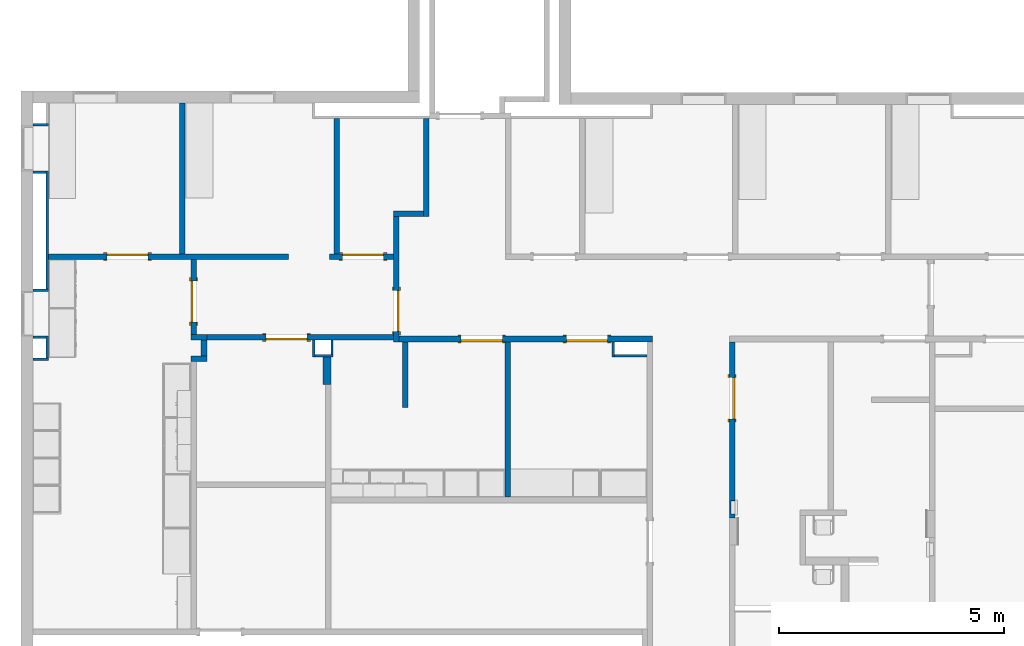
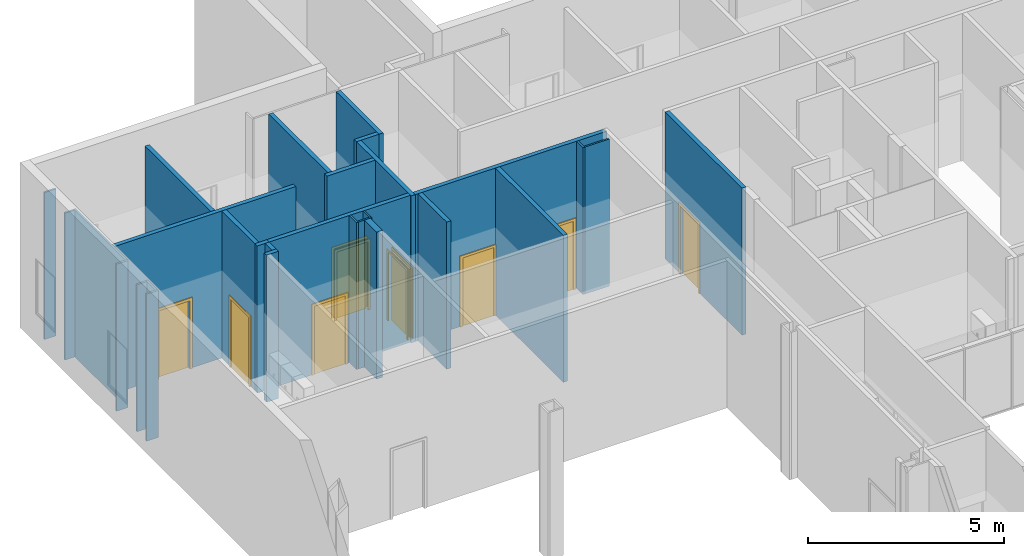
# One storey, part 20 of 47: 29 walls, 8 doors, 9 openings.
"""IFC2X3 building model written with IfcOpenShell, lengths in metres."""

import ifcopenshell
import ifcopenshell.guid

model = None  # the IFC model being written
_history = None  # IfcOwnerHistory: only IFC2X3 demands one
_inside = {}  # id of a spatial element -> (the spatial element, [elements in it])
_under = {}  # id of a project, library or spatial element -> (it, [spatial elements below it])
_declared = {}  # id of a project -> (the project, [libraries it declares])
_typed = {}  # id of a type object -> (the type object, [elements of that type])
_made_of = {}  # id of a material, layer set ... -> (it, [elements and type objects made of it])


def new_model(schema):
    """Start an empty IFC model of exactly this schema.

    Asked for "IFC4X3", IfcOpenShell would pick the latest addendum, in which some entities
    have other attributes; the version numbers below select the first issue.
    IFC2X3 requires an IfcOwnerHistory on every rooted entity: one is made here for all.
    """
    global model, _history
    if schema == "IFC4X3":
        model = ifcopenshell.file(schema_version=(4, 3, 0, 0))
    else:
        model = ifcopenshell.file(schema=schema)
    _inside.clear()
    _under.clear()
    _declared.clear()
    _typed.clear()
    _made_of.clear()
    _history = None
    if model.schema == "IFC2X3":
        org = make("IfcOrganization", Name="unknown")
        user = make(
            "IfcPersonAndOrganization",
            ThePerson=make("IfcPerson", FamilyName="unknown"),
            TheOrganization=org,
        )
        app = make(
            "IfcApplication",
            ApplicationDeveloper=org,
            Version="unknown",
            ApplicationFullName="unknown",
            ApplicationIdentifier="unknown",
        )
        _history = make(
            "IfcOwnerHistory",
            OwningUser=user,
            OwningApplication=app,
            ChangeAction="ADDED",
            CreationDate=0,
        )
    return model


def make(cls, **values):
    """One entity of the class cls with the attributes given. An attribute that is None is left unset."""
    return model.create_entity(
        cls, **{name: value for name, value in values.items() if value is not None}
    )


def entity(cls, *values):
    """Any entity or typed value of the class cls, its attributes in the order of the schema. None: left unset."""
    e = model.create_entity(cls)
    for i, value in enumerate(values):
        if value is not None:
            e[i] = value
    return e


def rooted(cls, **values):
    """An entity with a GlobalId (a new one), such as an element, a storey or a relation."""
    return make(cls, GlobalId=ifcopenshell.guid.new(), OwnerHistory=_history, **values)


def si_unit(unit_type, name, prefix=None):
    """IfcSIUnit, for example si_unit("LENGTHUNIT", "METRE", prefix="MILLI")."""
    return make("IfcSIUnit", UnitType=unit_type, Prefix=prefix, Name=name)


def converted_unit(unit_type, name, factor, base, dimensions=None, offset=None):
    """IfcConversionBasedUnit, such as the inch: factor (a typed value) times the base unit."""
    return make(
        "IfcConversionBasedUnit"
        if offset is None
        else "IfcConversionBasedUnitWithOffset",
        ConversionOffset=offset,
        Dimensions=None
        if dimensions is None
        else entity("IfcDimensionalExponents", *dimensions),
        UnitType=unit_type,
        Name=name,
        ConversionFactor=make(
            "IfcMeasureWithUnit", ValueComponent=factor, UnitComponent=base
        ),
    )


def assignment(units):
    """IfcUnitAssignment: the units of a project."""
    return None if units is None else make("IfcUnitAssignment", Units=units)


def point(xyz):
    """IfcCartesianPoint."""
    return None if xyz is None else make("IfcCartesianPoint", Coordinates=xyz)


def direction(xyz):
    """IfcDirection."""
    return None if xyz is None else make("IfcDirection", DirectionRatios=xyz)


def frame(location, z_axis=None, x_axis=None):
    """IfcAxis2Placement3D, a coordinate frame: its origin and axes. An axis left out is left unset."""
    return make(
        "IfcAxis2Placement3D",
        Location=point(location),
        Axis=direction(z_axis),
        RefDirection=direction(x_axis),
    )


def frame_2d(location, x_axis=None):
    """IfcAxis2Placement2D, a coordinate frame in the plane: its origin and x axis."""
    return make(
        "IfcAxis2Placement2D", Location=point(location), RefDirection=direction(x_axis)
    )


def origin():
    """The frame at (0, 0, 0) with its axes left unset."""
    return frame((0.0, 0.0, 0.0))


def origin_2d_with_axis():
    """The frame at (0, 0) in the plane with the x axis (1, 0) written out."""
    return frame_2d((0.0, 0.0), x_axis=(1.0, 0.0))


def place(relative_to, where):
    """IfcLocalPlacement: puts the frame where relative to a parent placement (None: the world)."""
    return make(
        "IfcLocalPlacement", PlacementRelTo=relative_to, RelativePlacement=where
    )


def context(
    kind, dimensions, precision=None, world=None, true_north=None, identifier=None
):
    """IfcGeometricRepresentationContext, for example the 3D "Model" context."""
    return make(
        "IfcGeometricRepresentationContext",
        ContextIdentifier=identifier,
        ContextType=kind,
        CoordinateSpaceDimension=dimensions,
        Precision=precision,
        WorldCoordinateSystem=world,
        TrueNorth=true_north,
    )


def project(units=None, contexts=None):
    """IfcProject with its units and contexts."""
    return rooted(
        "IfcProject",
        Name="project",
        RepresentationContexts=contexts,
        UnitsInContext=assignment(units),
    )


def spatial(cls, under=None, at=None, **own):
    """A site, building, storey or space (cls), placed at a placement, below another one or the project."""
    s = rooted(cls, ObjectPlacement=at, **own)
    if under is not None:
        _under.setdefault(under.id(), (under, []))[1].append(s)
    return s


def polyline(points):
    """IfcPolyline through the points."""
    return make("IfcPolyline", Points=[point(p) for p in points])


def profile(cls, at=None, kind="AREA", **sizes):
    """A parametric profile (cls). Its sizes go by their IFC names, for example OverallWidth=200.0."""
    return make(cls, ProfileType=kind, Position=at, **sizes)


def rectangle(**sizes):
    """IfcRectangleProfileDef."""
    return profile("IfcRectangleProfileDef", **sizes)


def outline(outer, holes=None, kind="AREA"):
    """IfcArbitraryClosedProfileDef: a profile drawn as a closed curve; with holes, ...WithVoids."""
    if holes is None:
        return make("IfcArbitraryClosedProfileDef", ProfileType=kind, OuterCurve=outer)
    return make(
        "IfcArbitraryProfileDefWithVoids",
        ProfileType=kind,
        OuterCurve=outer,
        InnerCurves=holes,
    )


def extrude(swept, where, along, depth):
    """IfcExtrudedAreaSolid: the profile swept, set in the frame where, extruded along a direction by depth."""
    return make(
        "IfcExtrudedAreaSolid",
        SweptArea=swept,
        Position=where,
        ExtrudedDirection=direction(along),
        Depth=depth,
    )


def shape(context_of_items, identifier, shape_type, items):
    """IfcShapeRepresentation: the items that make up one representation, for example the "Body"."""
    return make(
        "IfcShapeRepresentation",
        ContextOfItems=context_of_items,
        RepresentationIdentifier=identifier,
        RepresentationType=shape_type,
        Items=items,
    )


def source(mapping_origin, context_of_items, identifier, shape_type, items):
    """IfcRepresentationMap: a shape defined once, which mapped items show again and again."""
    return make(
        "IfcRepresentationMap",
        MappingOrigin=mapping_origin,
        MappedRepresentation=shape(context_of_items, identifier, shape_type, items),
    )


def transform(
    local_origin,
    x_axis=None,
    y_axis=None,
    z_axis=None,
    scale=None,
    scale2=None,
    scale3=None,
    uniform=True,
):
    """IfcCartesianTransformationOperator3D, or its non-uniform kind. x_axis, y_axis, z_axis: its Axis1, 2, 3."""
    if uniform:
        return make(
            "IfcCartesianTransformationOperator3D",
            Axis1=direction(x_axis),
            Axis2=direction(y_axis),
            LocalOrigin=point(local_origin),
            Scale=scale,
            Axis3=direction(z_axis),
        )
    return make(
        "IfcCartesianTransformationOperator3DnonUniform",
        Axis1=direction(x_axis),
        Axis2=direction(y_axis),
        LocalOrigin=point(local_origin),
        Scale=scale,
        Axis3=direction(z_axis),
        Scale2=scale2,
        Scale3=scale3,
    )


def mapped(mapping_source, mapping_target):
    """IfcMappedItem: shows the shape of a source again, moved by a transform."""
    return make(
        "IfcMappedItem", MappingSource=mapping_source, MappingTarget=mapping_target
    )


def material(Name=None, Category=None):
    """IfcMaterial."""
    return make("IfcMaterial", Name=Name, Category=Category)


def layer(
    of_material, thickness, ventilated=None, Name=None, Category=None, Priority=None
):
    """IfcMaterialLayer: one layer of a wall or slab, of a material (None: an air gap)."""
    return make(
        "IfcMaterialLayer",
        Material=of_material,
        LayerThickness=thickness,
        IsVentilated=ventilated,
        Name=Name,
        Category=Category,
        Priority=Priority,
    )


def layer_set(layers, Name=None):
    """IfcMaterialLayerSet."""
    return make("IfcMaterialLayerSet", MaterialLayers=layers, LayerSetName=Name)


def layer_usage(for_layer_set, set_direction, sense, offset, extent=None):
    """IfcMaterialLayerSetUsage: how a layer set lies in its element."""
    return make(
        "IfcMaterialLayerSetUsage",
        ForLayerSet=for_layer_set,
        LayerSetDirection=set_direction,
        DirectionSense=sense,
        OffsetFromReferenceLine=offset,
        ReferenceExtent=extent,
    )


def made_of(thing, what):
    """Note that an element or type object is made of a material, layer set ...; save() writes the relation."""
    if what is not None:
        _made_of.setdefault(what.id(), (what, []))[1].append(thing)
    return thing


def type_object(cls, material=None, **own):
    """A type object (cls), such as IfcWallType, which elements share."""
    return made_of(rooted(cls, **own), material)


def type_shapes(of_type, sources):
    """Give a type object the sources (RepresentationMaps) that its elements show as mapped items."""
    of_type.RepresentationMaps = sources


def element(
    cls,
    number,
    at=None,
    inside=None,
    cuts=None,
    type_object=None,
    material=None,
    context=None,
    identifier="Body",
    shape_type=None,
    held_by="IfcProductDefinitionShape",
    body=None,
    shapes=None,
    **own,
):
    """One element of the class cls, such as IfcWall. Its Tag is "e" and its number.

    at: its placement. inside: the storey or other place that contains it. cuts: it is an
    opening in that element (IfcRelVoidsElement). A single representation is given by context,
    identifier, shape_type and body (its items); several are given by shapes. held_by: the class
    of the entity that holds the representations. save() writes the other relations.
    """
    e = rooted(cls, Tag="e%d" % number, ObjectPlacement=at, **own)
    if body is not None:
        shapes = [shape(context, identifier, shape_type, body)]
    if shapes is not None:
        e.Representation = make(held_by, Representations=shapes)
    if inside is not None:
        _inside.setdefault(inside.id(), (inside, []))[1].append(e)
    if cuts is not None:
        rooted(
            "IfcRelVoidsElement", RelatingBuildingElement=cuts, RelatedOpeningElement=e
        )
    if type_object is not None:
        _typed.setdefault(type_object.id(), (type_object, []))[1].append(e)
    return made_of(e, material)


def fill(opening, filler):
    """IfcRelFillsElement: the door or window that sits in an opening."""
    return rooted(
        "IfcRelFillsElement",
        RelatingOpeningElement=opening,
        RelatedBuildingElement=filler,
    )


def aggregate(whole, parts):
    """IfcRelAggregates: a whole, such as a stair, and the parts it consists of."""
    return rooted("IfcRelAggregates", RelatingObject=whole, RelatedObjects=parts)


def save(model, path):
    """Write the relations noted so far, then the file.

    IfcRelAggregates (storeys below a building ...), IfcRelContainedInSpatialStructure (elements
    in a storey), IfcRelDefinesByType, IfcRelAssociatesMaterial and IfcRelDeclares: one each for
    every whole, place, type object, material and project.
    """
    for whole, parts in _under.values():
        aggregate(whole, parts)
    for where, things in _inside.values():
        rooted(
            "IfcRelContainedInSpatialStructure",
            RelatedElements=things,
            RelatingStructure=where,
        )
    for kind, things in _typed.values():
        rooted("IfcRelDefinesByType", RelatedObjects=things, RelatingType=kind)
    for what, things in _made_of.values():
        rooted("IfcRelAssociatesMaterial", RelatedObjects=things, RelatingMaterial=what)
    for by, libraries in _declared.values():
        rooted("IfcRelDeclares", RelatingContext=by, RelatedDefinitions=libraries)
    model.write(path)


model = new_model("IFC2X3")

# Units and contexts
model_context = context("Model", 3, precision=1e-09, world=origin())
plan_context = context("Plan", 3, precision=1e-09, world=origin())
ifc_project = project(units=[si_unit("LENGTHUNIT", "METRE"), si_unit("AREAUNIT", "SQUARE_METRE"), si_unit("VOLUMEUNIT", "CUBIC_METRE"), converted_unit("PLANEANGLEUNIT", "DEGREE", entity("IfcRatioMeasure", 0.01745329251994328), si_unit("PLANEANGLEUNIT", "RADIAN"), dimensions=[0, 0, 0, 0, 0, 0, 0]), si_unit("TIMEUNIT", "SECOND")], contexts=[model_context, plan_context])

# Site, building, storey
site_placement = place(None, origin())
site = spatial("IfcSite", under=ifc_project, at=site_placement, Name="Default", CompositionType="ELEMENT")
building_placement = place(site_placement, origin())
building = spatial("IfcBuilding", under=site, at=building_placement, CompositionType="ELEMENT")
storey_placement = place(building_placement, frame((0.0, 0.0, 4.570000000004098)))
storey = spatial("IfcBuildingStorey", under=building, at=storey_placement, Name="Second Floor", CompositionType="ELEMENT", Elevation=4.570000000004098)

# Wall, opening, door
ifc_material_1 = material(Name="Plasterboard")
ifc_layer_1 = layer(ifc_material_1, 0.016)
ifc_material_2 = material(Name="Metal - Stud Layer")
ifc_layer_2 = layer(ifc_material_2, 0.092)
ifc_layer_3 = layer(ifc_material_1, 0.016)
ifc_layer_set_1 = layer_set([ifc_layer_1, ifc_layer_2, ifc_layer_3], Name="Basic Wall:Interior - Partition (92mm Stud)")
ifc_layer_usage_1 = layer_usage(ifc_layer_set_1, "AXIS2", "NEGATIVE", 0.062)
wall_1_placement = place(storey_placement, frame((-39.08400000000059, 46.81643871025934, 0.0), z_axis=(0.0, 0.0, 1.0), x_axis=(-1.0, 0.0, 0.0)))
wall_1 = element("IfcWallStandardCase", 1, at=wall_1_placement, inside=storey, material=ifc_layer_usage_1, Name="Basic Wall:Interior - Partition (92mm Stud)", ObjectType="Basic Wall:Interior - Partition (92mm Stud)", context=model_context, shape_type="SweptSolid", body=[
    extrude(rectangle(XDim=1.425999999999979, YDim=0.1240000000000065, at=frame_2d((0.7129999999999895, 0.0), x_axis=(-1.0, 0.0))), origin(), (0.0, 0.0, 1.0), 4.577999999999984),
])
opening_1_placement = place(wall_1_placement, frame((1.141999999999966, 0.06200000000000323, 0.0)))
opening_1 = element("IfcOpeningElement", 2, at=opening_1_placement, cuts=wall_1, Name="M_Single-Flush:0915 x 2134mm:0915 x 2134mm:1", ObjectType="Opening", context=model_context, shape_type="SweptSolid", body=[
    extrude(rectangle(XDim=0.9149999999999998, YDim=2.134, at=frame_2d((1.067, 0.4575000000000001), x_axis=(0.0, -1.0))), frame((0.0, 0.0, 0.0), z_axis=(0.0, -1.0, 0.0), x_axis=(0.0, 0.0, 1.0)), (0.0, 0.0, 1.0), 0.124),
])
door_style_1 = type_object("IfcDoorStyle", Name="0915 x 2134mm", ConstructionType="NOTDEFINED", OperationType="SINGLE_SWING_LEFT", ParameterTakesPrecedence=False, Sizeable=False)
shared_shape_1 = source(origin(), model_context, "Body", "SweptSolid", [
    extrude(outline(polyline([(-0.5335, -1.123999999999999), (0.5334999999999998, -1.123999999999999), (0.5334999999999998, 1.086), (0.4574999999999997, 1.086), (0.4574999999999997, -1.048000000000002), (-0.4574999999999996, -1.048000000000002), (-0.4574999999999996, 1.086), (-0.5335, 1.086), (-0.5335, -1.123999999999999)])), frame((0.4575000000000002, 0.1489999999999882, 1.086), z_axis=(0.0, -1.0, 0.0), x_axis=(-1.0, 0.0, 0.0)), (0.0, 0.0, 1.0), 0.02499999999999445),
    extrude(outline(polyline([(-1.123999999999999, -0.5334999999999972), (1.085999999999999, -0.5334999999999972), (1.085999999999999, -0.4575000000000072), (-1.048, -0.4575000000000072), (-1.048, 0.4575000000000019), (1.085999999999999, 0.4575000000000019), (1.085999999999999, 0.5335000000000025), (-1.123999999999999, 0.5335000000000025), (-1.123999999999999, -0.5334999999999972)])), frame((0.4574999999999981, 0.0, 1.085999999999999), z_axis=(0.0, -1.0, 0.0), x_axis=(0.0, 0.0, -1.0)), (0.0, 0.0, 1.0), 0.02500000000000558),
    extrude(rectangle(XDim=0.9149999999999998, YDim=0.051, at=origin_2d_with_axis()), frame((0.4575000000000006, 0.09849999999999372, 0.0)), (0.0, 0.0, 1.0), 2.133999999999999),
])
type_shapes(door_style_1, [shared_shape_1])
door_1_placement = place(opening_1_placement, frame((0.0, 0.0, 0.0), z_axis=(0.0, 0.0, 1.0), x_axis=(-1.0, 0.0, 0.0)))
door_1 = element("IfcDoor", 3, at=door_1_placement, inside=storey, type_object=door_style_1, Name="M_Single-Flush:0915 x 2134mm:0915 x 2134mm", ObjectType="0915 x 2134mm", OverallHeight=2.134, OverallWidth=0.9149999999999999, context=model_context, shape_type="MappedRepresentation", body=[
    mapped(shared_shape_1, transform((0.0, 0.0, 0.0), scale=1.0)),
])
fill(opening_1, door_1)

# Walls
ifc_layer_usage_2 = layer_usage(ifc_layer_set_1, "AXIS2", "NEGATIVE", 0.062)
wall_2_placement = place(storey_placement, frame((-43.79200000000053, 50.23743871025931, 0.0), z_axis=(0.0, 0.0, 1.0), x_axis=(0.0, -1.0, 0.0)))
element("IfcWallStandardCase", 4, at=wall_2_placement, inside=storey, material=ifc_layer_usage_2, Name="Basic Wall:Interior - Partition (92mm Stud)", ObjectType="Basic Wall:Interior - Partition (92mm Stud)", context=model_context, shape_type="SweptSolid", body=[
    extrude(rectangle(XDim=3.358999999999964, YDim=0.1240000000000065, at=frame_2d((1.679499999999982, 0.0), x_axis=(-1.0, 0.0))), origin(), (0.0, 0.0, 1.0), 4.577999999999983),
])
ifc_layer_usage_3 = layer_usage(ifc_layer_set_1, "AXIS2", "NEGATIVE", 0.062)
wall_3_placement = place(storey_placement, frame((-40.34800000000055, 46.87843871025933, 0.0), z_axis=(0.0, 0.0, 1.0), x_axis=(0.0, 1.0, 0.0)))
element("IfcWallStandardCase", 5, at=wall_3_placement, inside=storey, material=ifc_layer_usage_3, Name="Basic Wall:Interior - Partition (92mm Stud)", ObjectType="Basic Wall:Interior - Partition (92mm Stud)", context=model_context, shape_type="SweptSolid", body=[
    extrude(rectangle(XDim=3.015999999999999, YDim=0.1240000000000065, at=frame_2d((1.507999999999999, 0.0), x_axis=(-1.0, 0.0))), origin(), (0.0, 0.0, 1.0), 4.577999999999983),
])
ifc_layer_usage_4 = layer_usage(ifc_layer_set_1, "AXIS2", "NEGATIVE", 0.062)
wall_4_placement = place(storey_placement, frame((-38.36200000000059, 49.89443871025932, 0.0), z_axis=(0.0, 0.0, 1.0), x_axis=(0.0, -1.0, 0.0)))
element("IfcWallStandardCase", 6, at=wall_4_placement, inside=storey, material=ifc_layer_usage_4, Name="Basic Wall:Interior - Partition (92mm Stud)", ObjectType="Basic Wall:Interior - Partition (92mm Stud)", context=model_context, shape_type="SweptSolid", body=[
    extrude(rectangle(XDim=2.190000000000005, YDim=0.1239999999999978, at=frame_2d((1.095000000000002, 0.0), x_axis=(-1.0, 0.0))), origin(), (0.0, 0.0, 1.0), 4.577999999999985),
])
ifc_layer_usage_5 = layer_usage(ifc_layer_set_1, "AXIS2", "NEGATIVE", 0.062)
wall_5_placement = place(storey_placement, frame((-38.4240000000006, 47.76643871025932, 0.0), z_axis=(0.0, 0.0, 1.0), x_axis=(-1.0, 0.0, 0.0)))
element("IfcWallStandardCase", 7, at=wall_5_placement, inside=storey, material=ifc_layer_usage_5, Name="Basic Wall:Interior - Partition (92mm Stud)", ObjectType="Basic Wall:Interior - Partition (92mm Stud)", context=model_context, shape_type="SweptSolid", body=[
    extrude(rectangle(XDim=0.6599999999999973, YDim=0.1240000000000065, at=frame_2d((0.3299999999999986, 0.0), x_axis=(-1.0, 0.0))), origin(), (0.0, 0.0, 1.0), 4.577999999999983),
])

# Wall, opening, door
ifc_layer_usage_6 = layer_usage(ifc_layer_set_1, "AXIS2", "NEGATIVE", 0.062)
wall_6_placement = place(storey_placement, frame((-39.02200000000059, 47.70443871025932, 0.0), z_axis=(0.0, 0.0, 1.0), x_axis=(0.0, -1.0, 0.0)))
wall_6 = element("IfcWallStandardCase", 8, at=wall_6_placement, inside=storey, material=ifc_layer_usage_6, Name="Basic Wall:Interior - Partition (92mm Stud)", ObjectType="Basic Wall:Interior - Partition (92mm Stud)", context=model_context, shape_type="SweptSolid", body=[
    extrude(rectangle(XDim=2.784000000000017, YDim=0.1240000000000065, at=frame_2d((1.392000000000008, 0.0), x_axis=(-1.0, 0.0))), origin(), (0.0, 0.0, 1.0), 4.577999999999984),
])
opening_2_placement = place(wall_6_placement, frame((1.645000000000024, -0.06200000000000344, 0.0)))
opening_2 = element("IfcOpeningElement", 9, at=opening_2_placement, cuts=wall_6, Name="M_Single-Flush:0915 x 2134mm:0915 x 2134mm:1", ObjectType="Opening", context=model_context, shape_type="SweptSolid", body=[
    extrude(rectangle(XDim=0.9149999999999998, YDim=2.134, at=frame_2d((1.067, 0.4575), x_axis=(0.0, 1.0))), frame((0.0, 0.0, 0.0), z_axis=(0.0, 1.0, 0.0), x_axis=(0.0, 0.0, 1.0)), (0.0, 0.0, 1.0), 0.124),
])
door_style_2 = type_object("IfcDoorStyle", Name="0915 x 2134mm", ConstructionType="NOTDEFINED", OperationType="SINGLE_SWING_RIGHT", ParameterTakesPrecedence=False, Sizeable=False)
shared_shape_2 = source(origin(), model_context, "Body", "SweptSolid", [
    extrude(outline(polyline([(-0.5335, -1.123999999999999), (0.5334999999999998, -1.123999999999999), (0.5334999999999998, 1.086), (0.4574999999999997, 1.086), (0.4574999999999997, -1.048000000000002), (-0.4574999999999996, -1.048000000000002), (-0.4574999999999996, 1.086), (-0.5335, 1.086), (-0.5335, -1.123999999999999)])), frame((0.4575000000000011, 0.1239999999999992, 1.086), z_axis=(0.0, 1.0, 0.0), x_axis=(1.0, 0.0, 0.0)), (0.0, 0.0, 1.0), 0.02499999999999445),
    extrude(outline(polyline([(-1.123999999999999, -0.5334999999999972), (1.085999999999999, -0.5334999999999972), (1.085999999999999, -0.4575000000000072), (-1.048, -0.4575000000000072), (-1.048, 0.4575000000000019), (1.085999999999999, 0.4575000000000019), (1.085999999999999, 0.5335000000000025), (-1.123999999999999, 0.5335000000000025), (-1.123999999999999, -0.5334999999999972)])), frame((0.4575000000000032, -0.02500000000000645, 1.085999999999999), z_axis=(0.0, 1.0, 0.0), x_axis=(0.0, 0.0, -1.0)), (0.0, 0.0, 1.0), 0.02500000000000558),
    extrude(rectangle(XDim=0.051, YDim=0.9149999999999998, at=origin_2d_with_axis()), frame((0.4575000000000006, 0.09849999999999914, 0.0), z_axis=(0.0, 0.0, 1.0), x_axis=(0.0, 1.0, 0.0)), (0.0, 0.0, 1.0), 2.133999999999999),
])
type_shapes(door_style_2, [shared_shape_2])
door_2_placement = place(opening_2_placement, origin())
door_2 = element("IfcDoor", 10, at=door_2_placement, inside=storey, type_object=door_style_2, Name="M_Single-Flush:0915 x 2134mm:0915 x 2134mm", ObjectType="0915 x 2134mm", OverallHeight=2.134, OverallWidth=0.9149999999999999, context=model_context, shape_type="MappedRepresentation", body=[
    mapped(shared_shape_2, transform((0.0, 0.0, 0.0), scale=1.0)),
])
fill(opening_2, door_2)

# Wall, openings, doors
ifc_layer_usage_7 = layer_usage(ifc_layer_set_1, "AXIS2", "NEGATIVE", 0.062)
wall_7_placement = place(storey_placement, frame((-38.9600000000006, 44.9824387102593, 0.0)))
wall_7 = element("IfcWallStandardCase", 11, at=wall_7_placement, inside=storey, material=ifc_layer_usage_7, Name="Basic Wall:Interior - Partition (92mm Stud)", ObjectType="Basic Wall:Interior - Partition (92mm Stud)", context=model_context, shape_type="SweptSolid", body=[
    extrude(rectangle(XDim=5.639999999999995, YDim=0.1240000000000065, at=frame_2d((2.819999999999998, 0.0), x_axis=(-1.0, 0.0))), origin(), (0.0, 0.0, 1.0), 4.577999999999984),
])
opening_3_placement = place(wall_7_placement, frame((4.639999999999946, 0.06199999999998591, 0.0)))
opening_3 = element("IfcOpeningElement", 12, at=opening_3_placement, cuts=wall_7, Name="M_Single-Flush:0915 x 2134mm:0915 x 2134mm:1", ObjectType="Opening", context=model_context, shape_type="SweptSolid", body=[
    extrude(rectangle(XDim=0.9149999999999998, YDim=2.134, at=frame_2d((1.067, 0.4574999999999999), x_axis=(0.0, -1.0))), frame((0.0, 0.0, 0.0), z_axis=(0.0, -1.0, 0.0), x_axis=(0.0, 0.0, 1.0)), (0.0, 0.0, 1.0), 0.124),
])
opening_4_placement = place(wall_7_placement, frame((2.295999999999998, 0.06199999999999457, 0.0)))
opening_4 = element("IfcOpeningElement", 13, at=opening_4_placement, cuts=wall_7, Name="M_Single-Flush:0915 x 2134mm:0915 x 2134mm:1", ObjectType="Opening", context=model_context, shape_type="SweptSolid", body=[
    extrude(rectangle(XDim=0.9149999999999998, YDim=2.134, at=frame_2d((1.067, 0.4575000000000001), x_axis=(0.0, -1.0))), frame((0.0, 0.0, 0.0), z_axis=(0.0, -1.0, 0.0), x_axis=(0.0, 0.0, 1.0)), (0.0, 0.0, 1.0), 0.124),
])
door_3_placement = place(opening_3_placement, frame((0.0, 0.0, 0.0), z_axis=(0.0, 0.0, 1.0), x_axis=(-1.0, 0.0, 0.0)))
door_3 = element("IfcDoor", 14, at=door_3_placement, inside=storey, type_object=door_style_1, Name="M_Single-Flush:0915 x 2134mm:0915 x 2134mm", ObjectType="0915 x 2134mm", OverallHeight=2.134, OverallWidth=0.9149999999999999, context=model_context, shape_type="MappedRepresentation", body=[
    mapped(shared_shape_1, transform((0.0, 0.0, 0.0), scale=1.0)),
])
fill(opening_3, door_3)
door_4_placement = place(opening_4_placement, frame((0.0, 0.0, 0.0), z_axis=(0.0, 0.0, 1.0), x_axis=(-1.0, 0.0, 0.0)))
door_4 = element("IfcDoor", 15, at=door_4_placement, inside=storey, type_object=door_style_1, Name="M_Single-Flush:0915 x 2134mm:0915 x 2134mm", ObjectType="0915 x 2134mm", OverallHeight=2.134, OverallWidth=0.9149999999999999, context=model_context, shape_type="MappedRepresentation", body=[
    mapped(shared_shape_1, transform((0.0, 0.0, 0.0), scale=1.0)),
])
fill(opening_4, door_4)

# Walls
ifc_layer_usage_8 = layer_usage(ifc_layer_set_1, "AXIS2", "NEGATIVE", 0.062)
wall_8_placement = place(storey_placement, frame((-43.60000000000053, 44.54243871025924, 0.0)))
element("IfcWallStandardCase", 16, at=wall_8_placement, inside=storey, material=ifc_layer_usage_8, Name="Basic Wall:Interior - Partition (92mm Stud)", ObjectType="Basic Wall:Interior - Partition (92mm Stud)", context=model_context, shape_type="SweptSolid", body=[
    extrude(rectangle(XDim=0.3540000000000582, YDim=0.1240000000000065, at=frame_2d((0.1770000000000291, 0.0), x_axis=(-1.0, 0.0))), origin(), (0.0, 0.0, 1.0), 4.577999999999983),
])
ifc_layer_usage_9 = layer_usage(ifc_layer_set_1, "AXIS2", "NEGATIVE", 0.062)
wall_9_placement = place(storey_placement, frame((-43.30800000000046, 44.60443871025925, 0.0), z_axis=(0.0, 0.0, 1.0), x_axis=(0.0, 1.0, 0.0)))
element("IfcWallStandardCase", 17, at=wall_9_placement, inside=storey, material=ifc_layer_usage_9, Name="Basic Wall:Interior - Partition (92mm Stud)", ObjectType="Basic Wall:Interior - Partition (92mm Stud)", context=model_context, shape_type="SweptSolid", body=[
    extrude(rectangle(XDim=0.350000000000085, YDim=0.1240000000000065, at=frame_2d((0.1750000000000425, 0.0), x_axis=(-1.0, 0.0))), origin(), (0.0, 0.0, 1.0), 4.577999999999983),
])
ifc_layer_usage_10 = layer_usage(ifc_layer_set_1, "AXIS2", "NEGATIVE", 0.062)
wall_10_placement = place(storey_placement, frame((-43.24600000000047, 45.01643871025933, 0.0), z_axis=(0.0, 0.0, 1.0), x_axis=(-1.0, 0.0, 0.0)))
element("IfcWallStandardCase", 18, at=wall_10_placement, inside=storey, material=ifc_layer_usage_10, Name="Basic Wall:Interior - Partition (92mm Stud)", ObjectType="Basic Wall:Interior - Partition (92mm Stud)", context=model_context, shape_type="SweptSolid", body=[
    extrude(rectangle(XDim=0.3540000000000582, YDim=0.1240000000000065, at=frame_2d((0.1770000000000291, 0.0), x_axis=(-1.0, 0.0))), origin(), (0.0, 0.0, 1.0), 4.577999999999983),
])

# Wall, opening, door
ifc_layer_usage_11 = layer_usage(ifc_layer_set_1, "AXIS2", "NEGATIVE", 0.062)
wall_11_placement = place(storey_placement, frame((-43.53800000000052, 45.07843871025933, 0.0), z_axis=(0.0, 0.0, 1.0), x_axis=(0.0, 1.0, 0.0)))
wall_11 = element("IfcWallStandardCase", 19, at=wall_11_placement, inside=storey, material=ifc_layer_usage_11, Name="Basic Wall:Interior - Partition (92mm Stud)", ObjectType="Basic Wall:Interior - Partition (92mm Stud)", context=model_context, shape_type="SweptSolid", body=[
    extrude(rectangle(XDim=1.676000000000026, YDim=0.1240000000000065, at=frame_2d((0.8380000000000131, 0.0), x_axis=(-1.0, 0.0))), origin(), (0.0, 0.0, 1.0), 4.577999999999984),
])
opening_5_placement = place(wall_11_placement, frame((0.279999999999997, -0.06200000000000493, 0.0)))
opening_5 = element("IfcOpeningElement", 20, at=opening_5_placement, cuts=wall_11, Name="M_Single-Flush:0915 x 2134mm:0915 x 2134mm:1", ObjectType="Opening", context=model_context, shape_type="SweptSolid", body=[
    extrude(rectangle(XDim=0.9149999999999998, YDim=2.134, at=frame_2d((1.067, 0.4575), x_axis=(0.0, 1.0))), frame((0.0, 0.0, 0.0), z_axis=(0.0, 1.0, 0.0), x_axis=(0.0, 0.0, 1.0)), (0.0, 0.0, 1.0), 0.124),
])
door_5_placement = place(opening_5_placement, origin())
door_5 = element("IfcDoor", 21, at=door_5_placement, inside=storey, type_object=door_style_2, Name="M_Single-Flush:0915 x 2134mm:0915 x 2134mm", ObjectType="0915 x 2134mm", OverallHeight=2.134, OverallWidth=0.9149999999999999, context=model_context, shape_type="MappedRepresentation", body=[
    mapped(shared_shape_2, transform((0.0, 0.0, 0.0), scale=1.0)),
])
fill(opening_5, door_5)

ifc_layer_usage_12 = layer_usage(ifc_layer_set_1, "AXIS2", "NEGATIVE", 0.062)
wall_12_placement = place(storey_placement, frame((-43.24600000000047, 45.01643871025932, 0.0)))
wall_12 = element("IfcWallStandardCase", 22, at=wall_12_placement, inside=storey, material=ifc_layer_usage_12, Name="Basic Wall:Interior - Partition (92mm Stud)", ObjectType="Basic Wall:Interior - Partition (92mm Stud)", context=model_context, shape_type="SweptSolid", body=[
    extrude(rectangle(XDim=4.161999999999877, YDim=0.1240000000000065, at=frame_2d((2.080999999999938, 0.0), x_axis=(-1.0, 0.0))), origin(), (0.0, 0.0, 1.0), 4.577999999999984),
])
opening_6_placement = place(wall_12_placement, frame((2.235999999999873, 0.06199999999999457, 0.0)))
opening_6 = element("IfcOpeningElement", 23, at=opening_6_placement, cuts=wall_12, Name="M_Single-Flush:0915 x 2134mm:0915 x 2134mm:1", ObjectType="Opening", context=model_context, shape_type="SweptSolid", body=[
    extrude(rectangle(XDim=0.9149999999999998, YDim=2.134, at=frame_2d((1.067, 0.4575000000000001), x_axis=(0.0, -1.0))), frame((0.0, 0.0, 0.0), z_axis=(0.0, -1.0, 0.0), x_axis=(0.0, 0.0, 1.0)), (0.0, 0.0, 1.0), 0.124),
])
door_6_placement = place(opening_6_placement, frame((0.0, 0.0, 0.0), z_axis=(0.0, 0.0, 1.0), x_axis=(-1.0, 0.0, 0.0)))
door_6 = element("IfcDoor", 24, at=door_6_placement, inside=storey, type_object=door_style_1, Name="M_Single-Flush:0915 x 2134mm:0915 x 2134mm", ObjectType="0915 x 2134mm", OverallHeight=2.134, OverallWidth=0.9149999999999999, context=model_context, shape_type="MappedRepresentation", body=[
    mapped(shared_shape_1, transform((0.0, 0.0, 0.0), scale=1.0)),
])
fill(opening_6, door_6)

# Walls
ifc_layer_usage_13 = layer_usage(ifc_layer_set_1, "AXIS2", "NEGATIVE", 0.062)
wall_13_placement = place(storey_placement, frame((-38.82200000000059, 44.92043871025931, 0.0), z_axis=(0.0, 0.0, 1.0), x_axis=(0.0, -1.0, 0.0)))
element("IfcWallStandardCase", 25, at=wall_13_placement, inside=storey, material=ifc_layer_usage_13, Name="Basic Wall:Interior - Partition (92mm Stud)", ObjectType="Basic Wall:Interior - Partition (92mm Stud)", context=model_context, shape_type="SweptSolid", body=[
    extrude(rectangle(XDim=1.465999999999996, YDim=0.1239999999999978, at=frame_2d((0.732999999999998, 0.0), x_axis=(-1.0, 0.0))), origin(), (0.0, 0.0, 1.0), 4.577999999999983),
])
ifc_layer_usage_14 = layer_usage(ifc_layer_set_1, "AXIS2", "NEGATIVE", 0.062)
wall_14_placement = place(storey_placement, frame((-36.54200000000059, 44.92043871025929, 0.0), z_axis=(0.0, 0.0, 1.0), x_axis=(0.0, -1.0, 0.0)))
element("IfcWallStandardCase", 26, at=wall_14_placement, inside=storey, material=ifc_layer_usage_14, Name="Basic Wall:Interior - Partition (92mm Stud)", ObjectType="Basic Wall:Interior - Partition (92mm Stud)", context=model_context, shape_type="SweptSolid", body=[
    extrude(rectangle(XDim=3.461999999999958, YDim=0.1239999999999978, at=frame_2d((1.730999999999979, 0.0), x_axis=(-1.0, 0.0))), origin(), (0.0, 0.0, 1.0), 4.577999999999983),
])

# Wall, opening, door
ifc_layer_usage_15 = layer_usage(ifc_layer_set_1, "AXIS2", "NEGATIVE", 0.062)
wall_15_placement = place(storey_placement, frame((-41.42500000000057, 46.81643871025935, 0.0), z_axis=(0.0, 0.0, 1.0), x_axis=(-1.0, 0.0, 0.0)))
wall_15 = element("IfcWallStandardCase", 27, at=wall_15_placement, inside=storey, material=ifc_layer_usage_15, Name="Basic Wall:Interior - Partition (92mm Stud)", ObjectType="Basic Wall:Interior - Partition (92mm Stud)", context=model_context, shape_type="SweptSolid", body=[
    extrude(rectangle(XDim=5.344999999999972, YDim=0.1240000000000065, at=frame_2d((2.672499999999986, 0.0), x_axis=(-1.0, 0.0))), origin(), (0.0, 0.0, 1.0), 4.577999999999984),
])
opening_7_placement = place(wall_15_placement, frame((4.043999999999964, 0.06199999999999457, 0.0)))
opening_7 = element("IfcOpeningElement", 28, at=opening_7_placement, cuts=wall_15, Name=":1", ObjectType="Opening", context=model_context, shape_type="SweptSolid", body=[
    extrude(rectangle(XDim=0.9149999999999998, YDim=2.134, at=frame_2d((1.067, 0.4575), x_axis=(0.0, 1.0))), frame((0.0, 0.0, 0.0), z_axis=(0.0, -1.0, 0.0), x_axis=(0.0, 0.0, 1.0)), (0.0, 0.0, 1.0), 0.124),
])
door_7_placement = place(opening_7_placement, frame((0.0, 0.0, 0.0), z_axis=(0.0, 0.0, 1.0), x_axis=(-1.0, 0.0, 0.0)))
door_7 = element("IfcDoor", 29, at=door_7_placement, inside=storey, type_object=door_style_2, Name="M_Single-Flush:0915 x 2134mm:0915 x 2134mm", ObjectType="0915 x 2134mm", OverallHeight=2.134, OverallWidth=0.9149999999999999, context=model_context, shape_type="MappedRepresentation", body=[
    mapped(shared_shape_2, transform((0.0, 0.0, 0.0), scale=1.0)),
])
fill(opening_7, door_7)

# Walls
ifc_layer_4 = layer(ifc_material_2, 0.038)
ifc_layer_5 = layer(ifc_material_1, 0.016)
ifc_layer_set_2 = layer_set([ifc_layer_4, ifc_layer_5], Name="Basic Wall:Interior - Furring (38 mm Stud)")
ifc_layer_usage_16 = layer_usage(ifc_layer_set_2, "AXIS2", "NEGATIVE", 0.027)
wall_16_placement = place(storey_placement, frame((-34.19300000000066, 44.92043871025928, 0.0), z_axis=(0.0, 0.0, 1.0), x_axis=(0.0, -1.0, 0.0)))
element("IfcWallStandardCase", 30, at=wall_16_placement, inside=storey, material=ifc_layer_usage_16, Name="Basic Wall:Interior - Furring (38 mm Stud)", ObjectType="Basic Wall:Interior - Furring (38 mm Stud)", context=model_context, shape_type="SweptSolid", body=[
    extrude(rectangle(XDim=0.3359999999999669, YDim=0.05399999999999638, at=frame_2d((0.1679999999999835, 0.0), x_axis=(-1.0, 0.0))), origin(), (0.0, 0.0, 1.0), 4.577999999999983),
])
ifc_layer_usage_17 = layer_usage(ifc_layer_set_2, "AXIS2", "NEGATIVE", 0.027)
wall_17_placement = place(storey_placement, frame((-34.16600000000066, 44.61143871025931, 0.0)))
element("IfcWallStandardCase", 31, at=wall_17_placement, inside=storey, material=ifc_layer_usage_17, Name="Basic Wall:Interior - Furring (38 mm Stud)", ObjectType="Basic Wall:Interior - Furring (38 mm Stud)", context=model_context, shape_type="SweptSolid", body=[
    extrude(rectangle(XDim=0.7220000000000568, YDim=0.05400000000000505, at=frame_2d((0.3610000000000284, 0.0), x_axis=(-1.0, 0.0))), origin(), (0.0, 0.0, 1.0), 4.577999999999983),
])
ifc_layer_usage_18 = layer_usage(ifc_layer_set_2, "AXIS2", "NEGATIVE", 0.027)
wall_18_placement = place(storey_placement, frame((-40.8630000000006, 44.95443871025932, 0.0), z_axis=(0.0, 0.0, 1.0), x_axis=(0.0, -1.0, 0.0)))
element("IfcWallStandardCase", 32, at=wall_18_placement, inside=storey, material=ifc_layer_usage_18, Name="Basic Wall:Interior - Furring (38 mm Stud)", ObjectType="Basic Wall:Interior - Furring (38 mm Stud)", context=model_context, shape_type="SweptSolid", body=[
    extrude(rectangle(XDim=0.3700000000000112, YDim=0.05400000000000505, at=frame_2d((0.1850000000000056, 0.0), x_axis=(-1.0, 0.0))), origin(), (0.0, 0.0, 1.0), 4.577999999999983),
])
ifc_layer_usage_19 = layer_usage(ifc_layer_set_2, "AXIS2", "NEGATIVE", 0.027)
wall_19_placement = place(storey_placement, frame((-40.8360000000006, 44.6114387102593, 0.0)))
element("IfcWallStandardCase", 33, at=wall_19_placement, inside=storey, material=ifc_layer_usage_19, Name="Basic Wall:Interior - Furring (38 mm Stud)", ObjectType="Basic Wall:Interior - Furring (38 mm Stud)", context=model_context, shape_type="SweptSolid", body=[
    extrude(rectangle(XDim=0.4059999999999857, YDim=0.05400000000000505, at=frame_2d((0.2029999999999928, 0.0), x_axis=(-1.0, 0.0))), origin(), (0.0, 0.0, 1.0), 4.577999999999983),
])
ifc_layer_usage_20 = layer_usage(ifc_layer_set_2, "AXIS2", "NEGATIVE", 0.027)
wall_20_placement = place(storey_placement, frame((-40.4570000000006, 44.63843871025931, 0.0), z_axis=(0.0, 0.0, 1.0), x_axis=(0.0, 1.0, 0.0)))
element("IfcWallStandardCase", 34, at=wall_20_placement, inside=storey, material=ifc_layer_usage_20, Name="Basic Wall:Interior - Furring (38 mm Stud)", ObjectType="Basic Wall:Interior - Furring (38 mm Stud)", context=model_context, shape_type="SweptSolid", body=[
    extrude(rectangle(XDim=0.3160000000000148, YDim=0.05400000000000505, at=frame_2d((0.1580000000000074, 0.0), x_axis=(-1.0, 0.0))), origin(), (0.0, 0.0, 1.0), 4.577999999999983),
])
ifc_layer_usage_21 = layer_usage(ifc_layer_set_2, "AXIS2", "NEGATIVE", 0.027)
wall_21_placement = place(storey_placement, frame((-47.11300000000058, 44.53392803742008, 0.0)))
element("IfcWallStandardCase", 35, at=wall_21_placement, inside=storey, material=ifc_layer_usage_21, Name="Basic Wall:Interior - Furring (38 mm Stud)", ObjectType="Basic Wall:Interior - Furring (38 mm Stud)", context=model_context, shape_type="SweptSolid", body=[
    extrude(rectangle(XDim=0.343000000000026, YDim=0.05400000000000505, at=frame_2d((0.171500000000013, 0.0), x_axis=(-1.0, 0.0))), origin(), (0.0, 0.0, 1.0), 4.577999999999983),
])
ifc_layer_usage_22 = layer_usage(ifc_layer_set_2, "AXIS2", "NEGATIVE", 0.027)
wall_22_placement = place(storey_placement, frame((-46.79700000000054, 44.56092803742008, 0.0), z_axis=(0.0, 0.0, 1.0), x_axis=(0.0, 1.0, 0.0)))
element("IfcWallStandardCase", 36, at=wall_22_placement, inside=storey, material=ifc_layer_usage_22, Name="Basic Wall:Interior - Furring (38 mm Stud)", ObjectType="Basic Wall:Interior - Furring (38 mm Stud)", context=model_context, shape_type="SweptSolid", body=[
    extrude(rectangle(XDim=0.4835106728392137, YDim=0.05400000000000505, at=frame_2d((0.2417553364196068, 0.0), x_axis=(-1.0, 0.0))), origin(), (0.0, 0.0, 1.0), 4.577999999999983),
])
ifc_layer_usage_23 = layer_usage(ifc_layer_set_2, "AXIS2", "NEGATIVE", 0.027)
wall_23_placement = place(storey_placement, frame((-46.82400000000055, 45.0174387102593, 0.0), z_axis=(0.0, 0.0, 1.0), x_axis=(-1.0, 0.0, 0.0)))
element("IfcWallStandardCase", 37, at=wall_23_placement, inside=storey, material=ifc_layer_usage_23, Name="Basic Wall:Interior - Furring (38 mm Stud)", ObjectType="Basic Wall:Interior - Furring (38 mm Stud)", context=model_context, shape_type="SweptSolid", body=[
    extrude(rectangle(XDim=0.2890000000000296, YDim=0.05400000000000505, at=frame_2d((0.1445000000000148, 0.0), x_axis=(-1.0, 0.0))), origin(), (0.0, 0.0, 1.0), 4.577999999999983),
])
ifc_layer_usage_24 = layer_usage(ifc_layer_set_2, "AXIS2", "NEGATIVE", 0.027)
wall_24_placement = place(storey_placement, frame((-47.11300000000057, 49.74944628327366, 0.0)))
element("IfcWallStandardCase", 38, at=wall_24_placement, inside=storey, material=ifc_layer_usage_24, Name="Basic Wall:Interior - Furring (38 mm Stud)", ObjectType="Basic Wall:Interior - Furring (38 mm Stud)", context=model_context, shape_type="SweptSolid", body=[
    extrude(rectangle(XDim=0.343000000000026, YDim=0.05400000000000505, at=frame_2d((0.171500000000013, 0.0), x_axis=(-1.0, 0.0))), origin(), (0.0, 0.0, 1.0), 4.577999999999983),
])
ifc_layer_usage_25 = layer_usage(ifc_layer_set_2, "AXIS2", "NEGATIVE", 0.027)
wall_25_placement = place(storey_placement, frame((-47.11300000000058, 46.07143913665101, 0.0)))
element("IfcWallStandardCase", 39, at=wall_25_placement, inside=storey, material=ifc_layer_usage_25, Name="Basic Wall:Interior - Furring (38 mm Stud)", ObjectType="Basic Wall:Interior - Furring (38 mm Stud)", context=model_context, shape_type="SweptSolid", body=[
    extrude(rectangle(XDim=0.3430000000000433, YDim=0.05400000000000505, at=frame_2d((0.1715000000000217, 0.0), x_axis=(-1.0, 0.0))), origin(), (0.0, 0.0, 1.0), 4.577999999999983),
])
ifc_layer_usage_26 = layer_usage(ifc_layer_set_2, "AXIS2", "NEGATIVE", 0.027)
wall_26_placement = place(storey_placement, frame((-46.79700000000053, 46.09843913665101, 0.0), z_axis=(0.0, 0.0, 1.0), x_axis=(0.0, 1.0, 0.0)))
element("IfcWallStandardCase", 40, at=wall_26_placement, inside=storey, material=ifc_layer_usage_26, Name="Basic Wall:Interior - Furring (38 mm Stud)", ObjectType="Basic Wall:Interior - Furring (38 mm Stud)", context=model_context, shape_type="SweptSolid", body=[
    extrude(rectangle(XDim=2.624007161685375, YDim=0.05400000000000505, at=frame_2d((1.312003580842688, 0.0), x_axis=(-1.0, 0.0))), origin(), (0.0, 0.0, 1.0), 4.577999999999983),
])
ifc_layer_usage_27 = layer_usage(ifc_layer_set_2, "AXIS2", "NEGATIVE", 0.027)
wall_27_placement = place(storey_placement, frame((-46.82400000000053, 48.69544629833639, 0.0), z_axis=(0.0, 0.0, 1.0), x_axis=(-1.0, 0.0, 0.0)))
element("IfcWallStandardCase", 41, at=wall_27_placement, inside=storey, material=ifc_layer_usage_27, Name="Basic Wall:Interior - Furring (38 mm Stud)", ObjectType="Basic Wall:Interior - Furring (38 mm Stud)", context=model_context, shape_type="SweptSolid", body=[
    extrude(rectangle(XDim=0.2890000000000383, YDim=0.05400000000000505, at=frame_2d((0.1445000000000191, 0.0), x_axis=(-1.0, 0.0))), origin(), (0.0, 0.0, 1.0), 4.577999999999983),
])
ifc_layer_6 = layer(ifc_material_1, 0.016)
ifc_layer_7 = layer(ifc_material_2, 0.152)
ifc_layer_8 = layer(ifc_material_1, 0.016)
ifc_layer_set_3 = layer_set([ifc_layer_6, ifc_layer_7, ifc_layer_8], Name="Basic Wall:Interior - Plumbing (152mm Stud)")
ifc_layer_usage_28 = layer_usage(ifc_layer_set_3, "AXIS2", "NEGATIVE", 0.092)
wall_28_placement = place(storey_placement, frame((-40.56800000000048, 43.9664387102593, 0.0), z_axis=(0.0, 0.0, 1.0), x_axis=(0.0, 1.0, 0.0)))
element("IfcWallStandardCase", 42, at=wall_28_placement, inside=storey, material=ifc_layer_usage_28, Name="Basic Wall:Interior - Plumbing (152mm Stud)", ObjectType="Basic Wall:Interior - Plumbing (152mm Stud)", context=model_context, shape_type="SweptSolid", body=[
    extrude(rectangle(XDim=0.6180000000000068, YDim=0.1839999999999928, at=frame_2d((0.3090000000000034, 0.0), x_axis=(-1.0, 0.0))), origin(), (0.0, 0.0, 1.0), 4.577999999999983),
])

# Wall, openings, door
ifc_layer_usage_29 = layer_usage(ifc_layer_set_1, "AXIS2", "NEGATIVE", 0.062)
wall_29_placement = place(storey_placement, frame((-31.5480000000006, 40.99537919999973, 0.0), z_axis=(0.0, 0.0, 1.0), x_axis=(0.0, 1.0, 0.0)))
wall_29 = element("IfcWallStandardCase", 43, at=wall_29_placement, inside=storey, material=ifc_layer_usage_29, Name="Basic Wall:Interior - Partition (92mm Stud)", ObjectType="Basic Wall:Interior - Partition (92mm Stud)", context=model_context, shape_type="SweptSolid", body=[
    extrude(rectangle(XDim=3.925059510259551, YDim=0.1239999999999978, at=frame_2d((1.962529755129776, 0.0), x_axis=(-1.0, 0.0))), origin(), (0.0, 0.0, 1.0), 4.577999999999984),
])
opening_8_placement = place(wall_29_placement, origin())
element("IfcOpeningElement", 44, at=opening_8_placement, cuts=wall_29, ObjectType="Opening", context=model_context, shape_type="SweptSolid", body=[
    extrude(rectangle(XDim=1.362075, YDim=0.2984499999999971, at=origin_2d_with_axis()), frame((0.2362676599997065, -0.1255000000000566, 1.041399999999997), z_axis=(0.0, 1.0, 0.0), x_axis=(0.0, 0.0, -1.0)), (0.0, 0.0, 1.0), 0.1524000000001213),
])
opening_9_placement = place(wall_29_placement, frame((3.125059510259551, 0.06199999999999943, 0.0)))
opening_9 = element("IfcOpeningElement", 45, at=opening_9_placement, cuts=wall_29, Name=":1", ObjectType="Opening", context=model_context, shape_type="SweptSolid", body=[
    extrude(rectangle(XDim=0.9149999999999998, YDim=2.134, at=frame_2d((1.067, 0.4575), x_axis=(0.0, 1.0))), frame((0.0, 0.0, 0.0), z_axis=(0.0, -1.0, 0.0), x_axis=(0.0, 0.0, 1.0)), (0.0, 0.0, 1.0), 0.124),
])
door_8_placement = place(opening_9_placement, frame((0.0, 0.0, 0.0), z_axis=(0.0, 0.0, 1.0), x_axis=(-1.0, 0.0, 0.0)))
door_8 = element("IfcDoor", 46, at=door_8_placement, inside=storey, type_object=door_style_2, Name="M_Single-Flush:0915 x 2134mm:0915 x 2134mm", ObjectType="0915 x 2134mm", OverallHeight=2.134, OverallWidth=0.9149999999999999, context=model_context, shape_type="MappedRepresentation", body=[
    mapped(shared_shape_2, transform((0.0, 0.0, 0.0), scale=1.0)),
])
fill(opening_9, door_8)

save(model, "model.ifc")
